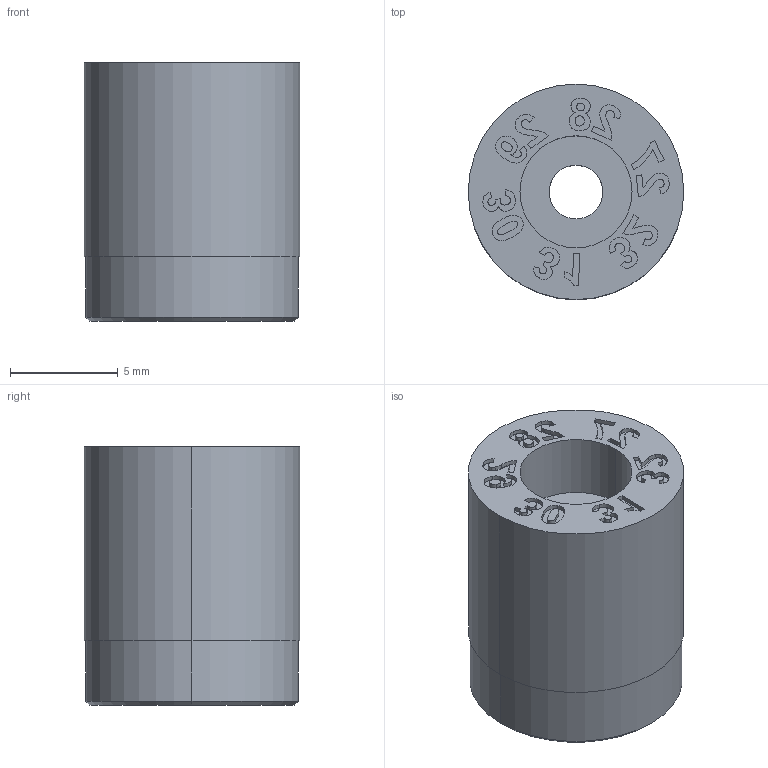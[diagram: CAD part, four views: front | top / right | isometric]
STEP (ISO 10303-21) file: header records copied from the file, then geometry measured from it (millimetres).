
FILE_DESCRIPTION (( 'STEP AP203' ), '1' );
FILE_NAME ('DTNY10-27.step', '2026-01-23T20:33:07', ( '' ), ( '' ), 'SwSTEP 2.0', 'SolidWorks 2023', '' );
FILE_SCHEMA (( 'CONFIG_CONTROL_DESIGN' ));
Length unit declared in the file: millimetre
Products named in the file (1): DTNY10-27
Bounding box: 10 x 10 x 12 mm (x, y, z)
Volume: 826.1 mm3; surface area: 654.5 mm2
Topology: 1 solids, 1 shells, 190 faces, 508 edges, 338 vertices
Faces by surface type: bspline 124, plane 56, cylinder 8, cone 2
Entity records: 11807 total; most frequent: CARTESIAN_POINT 7817, ORIENTED_EDGE 1016, EDGE_CURVE 508, DIRECTION 412, VERTEX_POINT 338, B_SPLINE_CURVE_WITH_KNOTS 248, VECTOR 242, LINE 242
